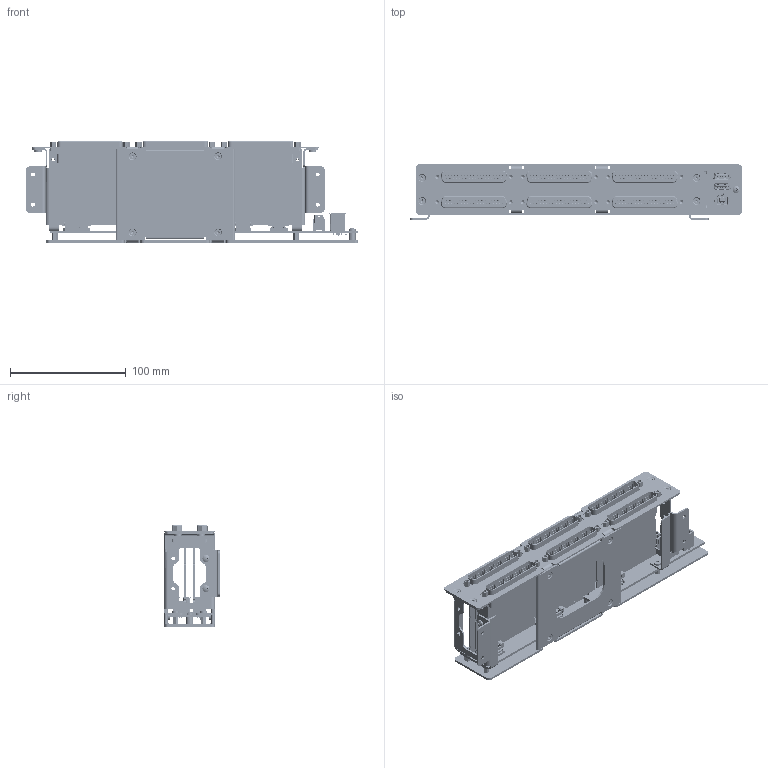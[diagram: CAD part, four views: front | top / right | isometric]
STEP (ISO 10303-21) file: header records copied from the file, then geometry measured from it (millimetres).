
FILE_DESCRIPTION((''),'2;1');
FILE_NAME('WE','2022-06-24T13:21:53',('kleong'),(''),'CREO PARAMETRIC BY PTC INC, 2021063','CREO PARAMETRIC BY PTC INC, 2021063','');
FILE_SCHEMA(('AUTOMOTIVE_DESIGN { 1 0 10303 214 1 1 1 1 }'));
Products named in the file (1): WE
Bounding box: 287.2 x 47.92 x 87.68 mm (x, y, z)
Volume: 193709.4 mm3; surface area: 225477.5 mm2
Topology: 23 solids, 25 shells, 17521 faces, 50246 edges, 32232 vertices
Faces by surface type: plane 13621, cylinder 2711, cone 471, sphere 242, extrusion 228, bspline 176, torus 72
Entity records: 741076 total; most frequent: CARTESIAN_POINT 176034, ORIENTED_EDGE 99532, DIRECTION 88020, EDGE_CURVE 49766, VECTOR 42082, LINE 41854, VERTEX_POINT 32238, AXIS2_PLACEMENT_3D 22969
